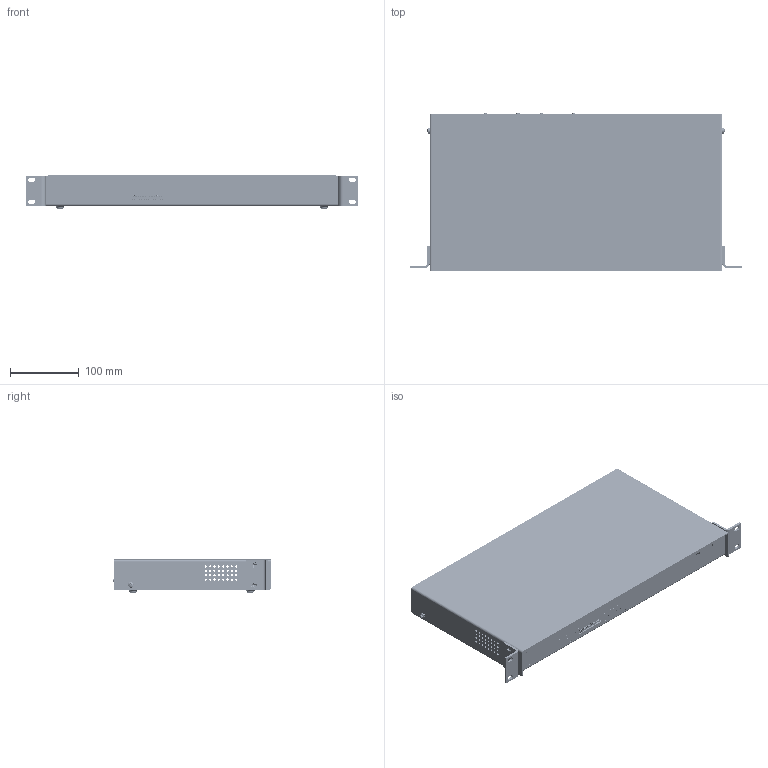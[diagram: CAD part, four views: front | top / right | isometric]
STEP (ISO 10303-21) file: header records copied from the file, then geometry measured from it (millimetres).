
FILE_DESCRIPTION(/* description */ (''),/* implementation_level */ '2;1');
FILE_NAME(/* name */ 'C:/Users/brook/OneDrive/Desktop/UDC-IC Rackmount.step',/* time_stamp */ '2022-05-27T11:56:28-04:00',/* author */ (''),/* organization */ (''),/* preprocessor_version */ 'ST-DEVELOPER v19',/* originating_system */ 'Autodesk Translation Framework v11.7.0.108',/* authorisation */ '');
FILE_SCHEMA (('AUTOMOTIVE_DESIGN { 1 0 10303 214 3 1 1 }'));
Products named in the file (26): Master Assembly Rackmount; Base Rackmount; Bracket; 713025; 713025_1; K22X(HT)-B25S-N_rA3(rA2); 713008; 708004; Standard Bracket; Rackmount Cover; 91771A191_Passivated 18-8 Stainless Steel Phillips Flat Head Screw; 91771A191_Passivated 18-8 Stainless Steel Phillips Flat Head Screw (1
); 91771A191_Passivated 18-8 Stainless Steel Phillips Flat Head Screw (2
); 91771A191_Passivated 18-8 Stainless Steel Phillips Flat Head Screw (3
); 95345A067_18-8 Stainless Steel Pan Head Screw; 95345A067_18-8 Stainless Steel Pan Head Screw (1); Jack Screw for K42X-B25S-S-A4NJ-rA3; SJxx12; 93090A210_Press-Fit Threaded Standoffs; Power Supply; 90730A003_18-8 Stainless Steel Narrow Hex Nut; Piano Switch BPA08B; Main PCB; 91772A106_Passivated 18-8 Stainless Steel Pan Head Phillips Screw; PCB Main; PCB Extension
Assembly tree (61 placements, depth 3):
  Master Assembly Rackmount
    Base Rackmount
    Bracket  x2
    713025
      K22X(HT)-B25S-N_rA3(rA2)
    713025_1
      K22X(HT)-B25S-N_rA3(rA2)
    713008
    708004
    Standard Bracket  x2
    Rackmount Cover
    91771A191_Passivated 18-8 Stainless Steel Phillips Flat Head Screw
    91771A191_Passivated 18-8 Stainless Steel Phillips Flat Head Screw (1
)
    91771A191_Passivated 18-8 Stainless Steel Phillips Flat Head Screw (2
)
    91771A191_Passivated 18-8 Stainless Steel Phillips Flat Head Screw (3
)
    95345A067_18-8 Stainless Steel Pan Head Screw
    95345A067_18-8 Stainless Steel Pan Head Screw (1)
    Jack Screw for K42X-B25S-S-A4NJ-rA3  x4
    SJxx12  x4
    93090A210_Press-Fit Threaded Standoffs  x11
    Power Supply
      91772A106_Passivated 18-8 Stainless Steel Pan Head Phillips Screw  x4
    91772A106_Passivated 18-8 Stainless Steel Pan Head Phillips Screw  x4
    90730A003_18-8 Stainless Steel Narrow Hex Nut  x3
    Piano Switch BPA08B  x2
    Main PCB
      91772A106_Passivated 18-8 Stainless Steel Pan Head Phillips Screw  x6
      PCB Main
    PCB Extension  x2
Bounding box: 482.6 x 229.37 x 47.98 mm (x, y, z)
Volume: 445705.4 mm3; surface area: 618592.6 mm2
Topology: 109 solids, 113 shells, 15092 faces, 41074 edges, 27003 vertices
Faces by surface type: plane 8184, bspline 4337, cylinder 2044, cone 282, torus 176, sphere 69
Full cylindrical faces by diameter (mm): 0.885 x1, 0.925 x1, 1.15 x50, 1.4 x4, 1.575 x68, 1.595 x3, 2.02 x203, 2.184 x9, 2.261 x4, 2.271 x8, 2.35 x4, 2.6 x3, 2.845 x208, 3 x3, 3.048 x4, 3.1 x6, 3.134 x38, 3.175 x68, 3.416 x4, 3.556 x30, 4.1 x4, 4.166 x42, 4.191 x11, 4.216 x10, 4.597 x34, 4.725 x4, 4.75 x2, 5.41 x4, 5.563 x14, 8.179 x2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
Entity records: 424761 total; most frequent: CARTESIAN_POINT 160216, ORIENTED_EDGE 61100, DIRECTION 39361, EDGE_CURVE 30550, VERTEX_POINT 20106, LINE 19897, VECTOR 19897, EDGE_LOOP 12260
